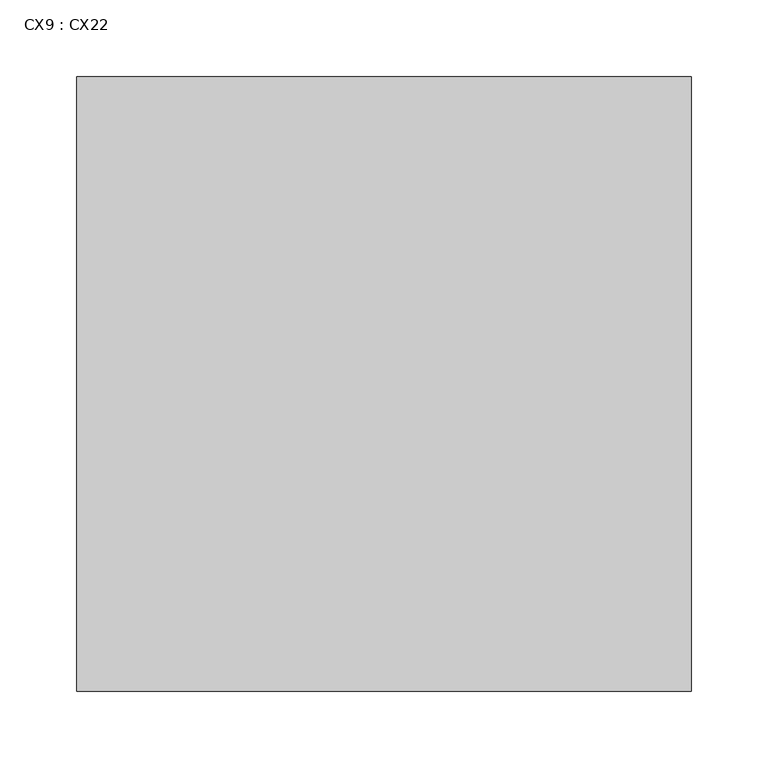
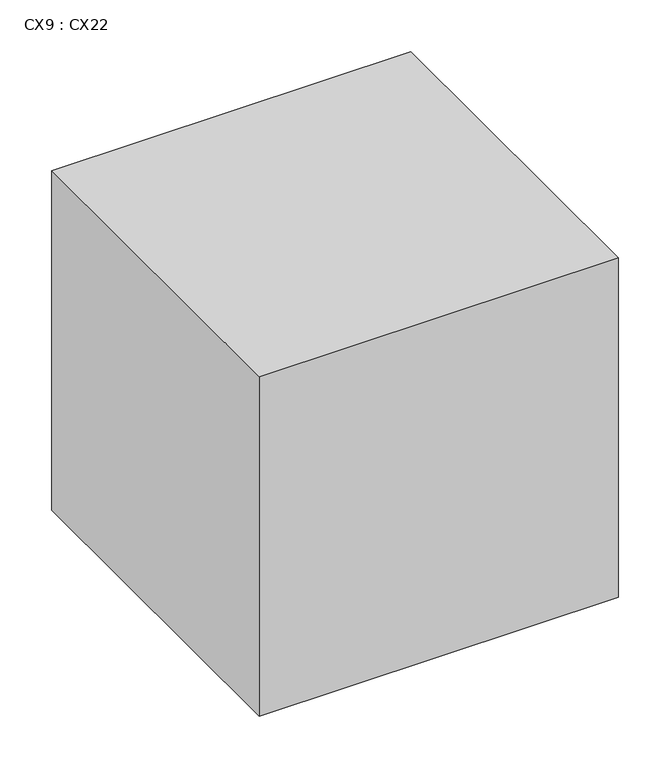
"""IFC4 building model written with IfcOpenShell, lengths in millimetres: proxy geometry, CX9 : CX22."""

from ifc_helpers import new_model, si_unit, frame, origin, place, context, project, spatial, polyline, outline, extrude, source, transform, mapped, element, save


def cx9_cx22_9410ceb6(model_context):
    return source(origin(), model_context, "Body", "SweptSolid", [
        extrude(outline(polyline([(10126.7746511, -7002.4378255), (10126.7746511, -7402.4378255), (9726.7746511, -7402.4378255), (9726.7746511, -7002.4378255), (10126.7746511, -7002.4378255)])), frame((0.0, 0.0, 1130.0), z_axis=(0.0, 0.0, 1.0), x_axis=(1.0, 0.0, 0.0)), (0.0, 0.0, 1.0), 400.0),
    ])


if __name__ == "__main__":
    model = new_model("IFC4")
    model_context = context("Model", 3, world=origin())
    ifc_project = project(units=[si_unit("LENGTHUNIT", "METRE", prefix="MILLI")], contexts=[model_context])
    site = spatial("IfcSite", under=ifc_project)
    building = spatial("IfcBuilding", under=site)
    placement = place(None, origin())
    cx9_cx22_shape = cx9_cx22_9410ceb6(model_context)
    element("IfcBuildingElementProxy", 1, Name="CX9 : CX22", ObjectType="CX9 : CX22", at=placement, inside=building, context=model_context, shape_type="MappedRepresentation", body=[
        mapped(cx9_cx22_shape, transform((0.0, 0.0, 0.0), x_axis=(1.0, 0.0, 0.0), y_axis=(0.0, 1.0, 0.0), z_axis=(0.0, 0.0, 1.0))),
    ])
    save(model, "model.ifc")
